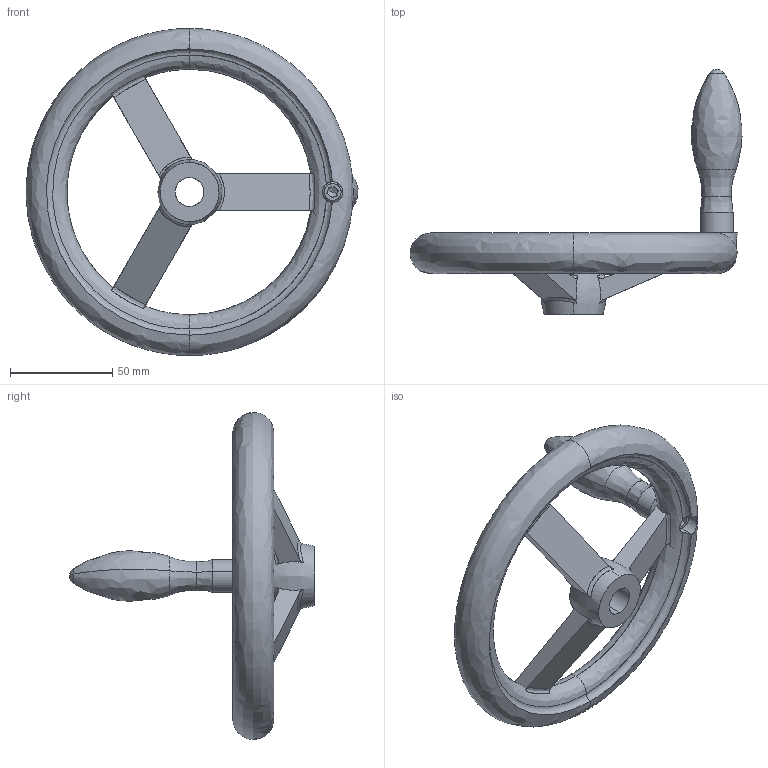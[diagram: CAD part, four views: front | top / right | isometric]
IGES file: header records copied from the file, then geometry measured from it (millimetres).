
Start section: SolidWorks IGES file using analytic representation for surfaces
Global section: file name: C:\Users\IanO\Desktop\Temp File\Process pending\77120_v2\77120_v2_20171108_IGES\77120.W0420.igs; native system: SolidWorks 2017; preprocessor: SolidWorks 2017; author: IanO; date: 171108.083720; units: millimetre
Bounding box: 162.37 x 120 x 160 mm (x, y, z)
Surface area: 44698.5 mm2 (no closed solid volume)
Topology: 0 solids, 0 shells, 123 faces, 1544 edges, 1535 vertices
Faces by surface type: bspline 73, revolution 50
